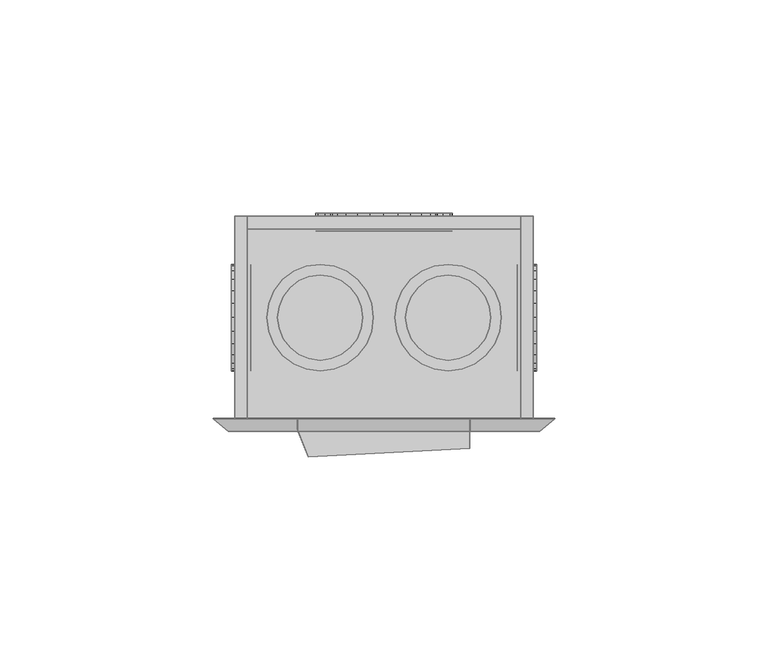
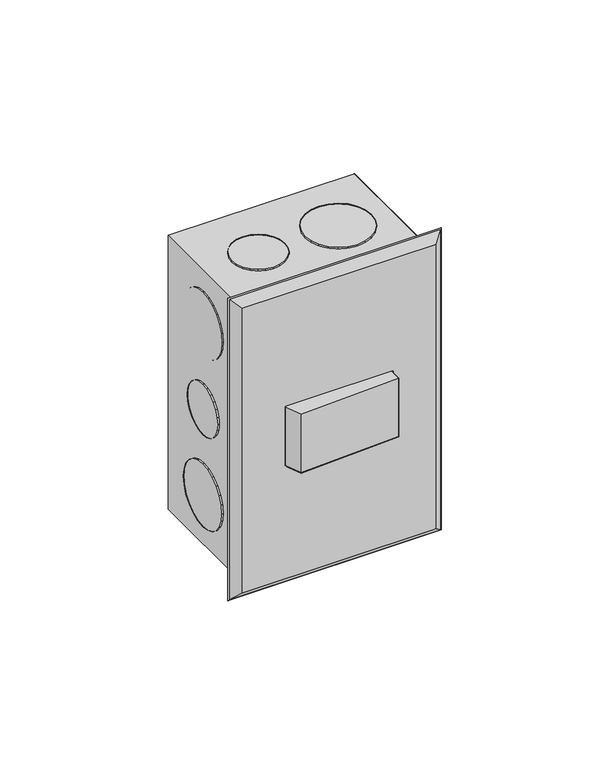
"""IFC4 building model written with IfcOpenShell, lengths in millimetres: proxy geometry,  210729 :  210729."""

from ifc_helpers import new_model, si_unit, origin, place, context, project, spatial, triangles, source, transform, mapped, element, save


def generic_models_3c2ccbee(model_context):
    return source(origin(), model_context, "Body", "Tessellation", [
        triangles([(9856.1797852, 26298.699408, 1254.3000378), (9853.1799683, 26298.699408, 1148.7000154), (9856.1797852, 26298.699408, 1145.6999805), (9853.1799683, 26298.699408, 1251.2999302), (9786.1805695, 26298.699408, 1254.3000378), (9789.1803864, 26298.699408, 1251.2999302), (9786.1805695, 26298.699408, 1145.6999805), (9789.1803864, 26298.699408, 1148.7000154), (9853.1799683, 26346.2011597, 1251.2999302), (9853.1799683, 26346.2011597, 1148.7000154), (9786.1805695, 26346.2011597, 1254.3000378), (9786.1805695, 26346.2011597, 1145.6999805), (9789.1803864, 26346.2011597, 1251.2999302), (9856.1797852, 26346.2011597, 1145.6999805), (9789.1803864, 26346.2011597, 1148.7000154), (9856.1797852, 26346.2011597, 1254.3000378), (9853.1799683, 26343.1990173, 1251.2999302), (9789.1803864, 26343.1990173, 1148.7000154), (9853.1799683, 26343.1990173, 1148.7000154), (9789.1803864, 26343.1990173, 1251.2999302), (9835.0799103, 26342.6990479, 1191.9999887), (9829.1802704, 26342.6990479, 1186.0999855), (9832.480069, 26342.6990479, 1188.6999722), (9836.6798126, 26342.6990479, 1195.8999687), (9825.3805023, 26342.6990479, 1184.5000105), (9837.1797821, 26342.6990479, 1200.0000092), (9821.1795959, 26342.6990479, 1183.9999683), (9836.6798126, 26342.6990479, 1204.0999769), (9817.0798462, 26342.6990479, 1184.5000105), (9835.0799103, 26342.6990479, 1208.0000296), (9813.1800842, 26342.6990479, 1186.0999855), (9832.480069, 26342.6990479, 1211.2999735), (9809.8802856, 26342.6990479, 1188.6999722), (9829.1802704, 26342.6990479, 1213.9000328), (9807.3804382, 26342.6990479, 1191.9999887), (9825.3805023, 26342.6990479, 1215.5000078), (9805.7805359, 26342.6990479, 1195.8999687), (9821.1795959, 26342.6990479, 1215.9999773), (9805.1805725, 26342.6990479, 1200.0000092), (9817.0798462, 26342.6990479, 1215.5000078), (9805.7805359, 26342.6990479, 1204.0999769), (9813.1800842, 26342.6990479, 1213.9000328), (9807.3804382, 26342.6990479, 1208.0000296), (9809.8802856, 26342.6990479, 1211.2999735), (9817.0798462, 26346.9011169, 1184.5000105), (9821.1795959, 26346.9011169, 1183.9999683), (9825.3805023, 26346.9011169, 1184.5000105), (9829.1802704, 26346.9011169, 1186.0999855), (9832.480069, 26346.9011169, 1188.6999722), (9835.0799103, 26346.9011169, 1191.9999887), (9836.6798126, 26346.9011169, 1195.8999687), (9837.1797821, 26346.9011169, 1200.0000092), (9836.6798126, 26346.9011169, 1204.0999769), (9835.0799103, 26346.9011169, 1208.0000296), (9832.480069, 26346.9011169, 1211.2999735), (9829.1802704, 26346.9011169, 1213.9000328), (9825.3805023, 26346.9011169, 1215.5000078), (9821.1795959, 26346.9011169, 1215.9999773), (9817.0798462, 26346.9011169, 1215.5000078), (9813.1800842, 26346.9011169, 1213.9000328), (9809.8802856, 26346.9011169, 1211.2999735), (9807.3804382, 26346.9011169, 1208.0000296), (9805.7805359, 26346.9011169, 1204.0999769), (9805.1805725, 26346.9011169, 1200.0000092), (9805.7805359, 26346.9011169, 1195.8999687), (9807.3804382, 26346.9011169, 1191.9999887), (9809.8802856, 26346.9011169, 1188.6999722), (9813.1800842, 26346.9011169, 1186.0999855), (9832.0800934, 26342.6990479, 1227.8000565), (9827.4803741, 26342.6990479, 1223.2000465), (9830.0802155, 26342.6990479, 1225.2000698), (9833.2800201, 26342.6990479, 1230.8000187), (9824.4805573, 26342.6990479, 1221.8999805), (9833.6799957, 26342.6990479, 1233.9999687), (9821.1795959, 26342.6990479, 1221.500005), (9833.2800201, 26342.6990479, 1237.2000641), (9817.9797913, 26342.6990479, 1221.8999805), (9832.0800934, 26342.6990479, 1240.3000202), (9814.9799744, 26342.6990479, 1223.2000465), (9830.0802155, 26342.6990479, 1242.800013), (9812.3801331, 26342.6990479, 1225.2000698), (9810.3802551, 26342.6990479, 1227.8000565), (9827.4803741, 26342.6990479, 1244.8000362), (9824.4805573, 26342.6990479, 1246.0999569), (9809.1803284, 26342.6990479, 1230.8000187), (9821.1795959, 26342.6990479, 1246.4999325), (9808.6803589, 26342.6990479, 1233.9999687), (9817.9797913, 26342.6990479, 1246.0999569), (9809.1803284, 26342.6990479, 1237.2000641), (9810.3802551, 26342.6990479, 1240.3000202), (9814.9799744, 26342.6990479, 1244.8000362), (9812.3801331, 26342.6990479, 1242.800013), (9809.1803284, 26346.9011169, 1230.8000187), (9810.3802551, 26346.9011169, 1227.8000565), (9812.3801331, 26346.9011169, 1225.2000698), (9814.9799744, 26346.9011169, 1223.2000465), (9817.9797913, 26346.9011169, 1221.8999805), (9821.1795959, 26346.9011169, 1221.500005), (9824.4805573, 26346.9011169, 1221.8999805), (9827.4803741, 26346.9011169, 1223.2000465), (9830.0802155, 26346.9011169, 1225.2000698), (9832.0800934, 26346.9011169, 1227.8000565), (9833.2800201, 26346.9011169, 1230.8000187), (9833.6799957, 26346.9011169, 1233.9999687), (9833.2800201, 26346.9011169, 1237.2000641), (9832.0800934, 26346.9011169, 1240.3000202), (9830.0802155, 26346.9011169, 1242.800013), (9827.4803741, 26346.9011169, 1244.8000362), (9824.4805573, 26346.9011169, 1246.0999569), (9821.1795959, 26346.9011169, 1246.4999325), (9817.9797913, 26346.9011169, 1246.0999569), (9814.9799744, 26346.9011169, 1244.8000362), (9812.3801331, 26346.9011169, 1242.800013), (9810.3802551, 26346.9011169, 1240.3000202), (9809.1803284, 26346.9011169, 1237.2000641), (9808.6803589, 26346.9011169, 1233.9999687), (9827.4803741, 26346.9011169, 1155.1999821), (9832.0800934, 26346.9011169, 1159.6999981), (9830.0802155, 26346.9011169, 1157.2000053), (9824.4805573, 26346.9011169, 1153.8999887), (9833.2800201, 26346.9011169, 1162.8000269), (9821.1795959, 26346.9011169, 1153.5000132), (9833.6799957, 26346.9011169, 1165.9999769), (9817.9797913, 26346.9011169, 1153.8999887), (9833.2800201, 26346.9011169, 1169.1999996), (9814.9799744, 26346.9011169, 1155.1999821), (9832.0800934, 26346.9011169, 1172.2000345), (9812.3801331, 26346.9011169, 1157.2000053), (9830.0802155, 26346.9011169, 1174.8000212), (9810.3802551, 26346.9011169, 1159.6999981), (9827.4803741, 26346.9011169, 1176.7999718), (9809.1803284, 26346.9011169, 1162.8000269), (9824.4805573, 26346.9011169, 1178.0999651), (9821.1795959, 26346.9011169, 1178.5000134), (9808.6803589, 26346.9011169, 1165.9999769), (9809.1803284, 26346.9011169, 1169.1999996), (9817.9797913, 26346.9011169, 1178.0999651), (9810.3802551, 26346.9011169, 1172.2000345), (9814.9799744, 26346.9011169, 1176.7999718), (9812.3801331, 26346.9011169, 1174.8000212), (9824.4805573, 26342.6990479, 1178.0999651), (9821.1795959, 26342.6990479, 1178.5000134), (9827.4803741, 26342.6990479, 1176.7999718), (9830.0802155, 26342.6990479, 1174.8000212), (9832.0800934, 26342.6990479, 1172.2000345), (9833.2800201, 26342.6990479, 1169.1999996), (9833.6799957, 26342.6990479, 1165.9999769), (9833.2800201, 26342.6990479, 1162.8000269), (9832.0800934, 26342.6990479, 1159.6999981), (9830.0802155, 26342.6990479, 1157.2000053), (9827.4803741, 26342.6990479, 1155.1999821), (9824.4805573, 26342.6990479, 1153.8999887), (9821.1795959, 26342.6990479, 1153.5000132), (9817.9797913, 26342.6990479, 1153.8999887), (9814.9799744, 26342.6990479, 1155.1999821), (9812.3801331, 26342.6990479, 1157.2000053), (9810.3802551, 26342.6990479, 1159.6999981), (9809.1803284, 26342.6990479, 1162.8000269), (9808.6803589, 26342.6990479, 1165.9999769), (9809.1803284, 26342.6990479, 1169.1999996), (9810.3802551, 26342.6990479, 1172.2000345), (9812.3801331, 26342.6990479, 1174.8000212), (9814.9799744, 26342.6990479, 1176.7999718), (9817.9797913, 26342.6990479, 1178.0999651), (9852.3800171, 26327.3999817, 1191.3000315), (9852.3800171, 26331.0997559, 1195.0000237), (9852.3800171, 26329.4998535, 1192.9000065), (9852.3800171, 26332.0996948, 1197.4000225), (9852.3800171, 26325.0001282, 1190.3000198), (9852.3800171, 26332.3996765, 1200.0000092), (9852.3800171, 26322.4002869, 1189.9999655), (9852.3800171, 26319.9004395, 1190.3000198), (9852.3800171, 26332.0996948, 1202.5999958), (9852.3800171, 26331.0997559, 1204.9999947), (9852.3800171, 26317.400592, 1191.3000315), (9852.3800171, 26329.4998535, 1207.1000118), (9852.3800171, 26315.4007141, 1192.9000065), (9852.3800171, 26313.8008118, 1195.0000237), (9852.3800171, 26327.3999817, 1208.6999868), (9852.3800171, 26312.8008728, 1197.4000225), (9852.3800171, 26325.0001282, 1209.6999985), (9852.3800171, 26312.4008972, 1200.0000092), (9852.3800171, 26322.4002869, 1209.9999802), (9852.3800171, 26312.8008728, 1202.5999958), (9852.3800171, 26319.9004395, 1209.6999985), (9852.3800171, 26317.400592, 1208.6999868), (9852.3800171, 26313.8008118, 1204.9999947), (9852.3800171, 26315.4007141, 1207.1000118), (9856.9797363, 26322.4002869, 1189.9999655), (9856.9797363, 26325.0001282, 1190.3000198), (9856.9797363, 26319.9004395, 1190.3000198), (9856.9797363, 26317.400592, 1191.3000315), (9856.9797363, 26315.4007141, 1192.9000065), (9856.9797363, 26313.8008118, 1195.0000237), (9856.9797363, 26312.8008728, 1197.4000225), (9856.9797363, 26312.4008972, 1200.0000092), (9856.9797363, 26312.8008728, 1202.5999958), (9856.9797363, 26313.8008118, 1204.9999947), (9856.9797363, 26315.4007141, 1207.1000118), (9856.9797363, 26317.400592, 1208.6999868), (9856.9797363, 26319.9004395, 1209.6999985), (9856.9797363, 26322.4002869, 1209.9999802), (9856.9797363, 26325.0001282, 1209.6999985), (9856.9797363, 26327.3999817, 1208.6999868), (9856.9797363, 26329.4998535, 1207.1000118), (9856.9797363, 26331.0997559, 1204.9999947), (9856.9797363, 26332.0996948, 1202.5999958), (9856.9797363, 26332.3996765, 1200.0000092), (9856.9797363, 26332.0996948, 1197.4000225), (9856.9797363, 26331.0997559, 1195.0000237), (9856.9797363, 26329.4998535, 1192.9000065), (9856.9797363, 26327.3999817, 1191.3000315), (9852.3800171, 26328.6999023, 1223.2000465), (9852.3800171, 26333.2996216, 1227.8000565), (9852.3800171, 26331.2997437, 1225.2000698), (9852.3800171, 26325.7000854, 1221.8999805), (9852.3800171, 26334.4995483, 1230.8000187), (9852.3800171, 26334.8995239, 1233.9999687), (9852.3800171, 26322.4002869, 1221.500005), (9852.3800171, 26319.2004822, 1221.8999805), (9852.3800171, 26334.4995483, 1237.2000641), (9852.3800171, 26333.2996216, 1240.3000202), (9852.3800171, 26316.2006653, 1223.2000465), (9852.3800171, 26313.600824, 1225.2000698), (9852.3800171, 26331.2997437, 1242.800013), (9852.3800171, 26311.600946, 1227.8000565), (9852.3800171, 26328.6999023, 1244.8000362), (9852.3800171, 26310.4010193, 1230.8000187), (9852.3800171, 26325.7000854, 1246.0999569), (9852.3800171, 26309.9010498, 1233.9999687), (9852.3800171, 26322.4002869, 1246.4999325), (9852.3800171, 26310.4010193, 1237.2000641), (9852.3800171, 26319.2004822, 1246.0999569), (9852.3800171, 26311.600946, 1240.3000202), (9852.3800171, 26316.2006653, 1244.8000362), (9852.3800171, 26313.600824, 1242.800013), (9856.9797363, 26322.4002869, 1221.500005), (9856.9797363, 26325.7000854, 1221.8999805), (9856.9797363, 26319.2004822, 1221.8999805), (9856.9797363, 26316.2006653, 1223.2000465), (9856.9797363, 26313.600824, 1225.2000698), (9856.9797363, 26311.600946, 1227.8000565), (9856.9797363, 26310.4010193, 1230.8000187), (9856.9797363, 26309.9010498, 1233.9999687), (9856.9797363, 26310.4010193, 1237.2000641), (9856.9797363, 26311.600946, 1240.3000202), (9856.9797363, 26313.600824, 1242.800013), (9856.9797363, 26316.2006653, 1244.8000362), (9856.9797363, 26319.2004822, 1246.0999569), (9856.9797363, 26322.4002869, 1246.4999325), (9856.9797363, 26325.7000854, 1246.0999569), (9856.9797363, 26328.6999023, 1244.8000362), (9856.9797363, 26331.2997437, 1242.800013), (9856.9797363, 26333.2996216, 1240.3000202), (9856.9797363, 26334.4995483, 1237.2000641), (9856.9797363, 26334.8995239, 1233.9999687), (9856.9797363, 26334.4995483, 1230.8000187), (9856.9797363, 26333.2996216, 1227.8000565), (9856.9797363, 26331.2997437, 1225.2000698), (9856.9797363, 26328.6999023, 1223.2000465), (9856.9797363, 26333.2996216, 1159.6999981), (9856.9797363, 26328.6999023, 1155.1999821), (9856.9797363, 26331.2997437, 1157.2000053), (9856.9797363, 26334.4995483, 1162.8000269), (9856.9797363, 26325.7000854, 1153.8999887), (9856.9797363, 26334.8995239, 1165.9999769), (9856.9797363, 26322.4002869, 1153.5000132), (9856.9797363, 26334.4995483, 1169.1999996), (9856.9797363, 26319.2004822, 1153.8999887), (9856.9797363, 26333.2996216, 1172.2000345), (9856.9797363, 26316.2006653, 1155.1999821), (9856.9797363, 26331.2997437, 1174.8000212), (9856.9797363, 26313.600824, 1157.2000053), (9856.9797363, 26328.6999023, 1176.7999718), (9856.9797363, 26311.600946, 1159.6999981), (9856.9797363, 26325.7000854, 1178.0999651), (9856.9797363, 26310.4010193, 1162.8000269), (9856.9797363, 26322.4002869, 1178.5000134), (9856.9797363, 26309.9010498, 1165.9999769), (9856.9797363, 26319.2004822, 1178.0999651), (9856.9797363, 26310.4010193, 1169.1999996), (9856.9797363, 26316.2006653, 1176.7999718), (9856.9797363, 26311.600946, 1172.2000345), (9856.9797363, 26313.600824, 1174.8000212), (9852.3800171, 26325.7000854, 1178.0999651), (9852.3800171, 26322.4002869, 1178.5000134), (9852.3800171, 26319.2004822, 1178.0999651), (9852.3800171, 26316.2006653, 1176.7999718), (9852.3800171, 26313.600824, 1174.8000212), (9852.3800171, 26311.600946, 1172.2000345), (9852.3800171, 26310.4010193, 1169.1999996), (9852.3800171, 26309.9010498, 1165.9999769), (9852.3800171, 26310.4010193, 1162.8000269), (9852.3800171, 26311.600946, 1159.6999981), (9852.3800171, 26313.600824, 1157.2000053), (9852.3800171, 26316.2006653, 1155.1999821), (9852.3800171, 26319.2004822, 1153.8999887), (9852.3800171, 26322.4002869, 1153.5000132), (9852.3800171, 26325.7000854, 1153.8999887), (9852.3800171, 26328.6999023, 1155.1999821), (9852.3800171, 26331.2997437, 1157.2000053), (9852.3800171, 26333.2996216, 1159.6999981), (9852.3800171, 26334.4995483, 1162.8000269), (9852.3800171, 26334.8995239, 1165.9999769), (9852.3800171, 26334.4995483, 1169.1999996), (9852.3800171, 26333.2996216, 1172.2000345), (9852.3800171, 26331.2997437, 1174.8000212), (9852.3800171, 26328.6999023, 1176.7999718), (9789.9803375, 26331.0997559, 1195.0000237), (9789.9803375, 26327.3999817, 1191.3000315), (9789.9803375, 26329.4998535, 1192.9000065), (9789.9803375, 26332.0996948, 1197.4000225), (9789.9803375, 26325.0001282, 1190.3000198), (9789.9803375, 26332.3996765, 1200.0000092), (9789.9803375, 26322.4002869, 1189.9999655), (9789.9803375, 26332.0996948, 1202.5999958), (9789.9803375, 26319.9004395, 1190.3000198), (9789.9803375, 26331.0997559, 1204.9999947), (9789.9803375, 26317.400592, 1191.3000315), (9789.9803375, 26329.4998535, 1207.1000118), (9789.9803375, 26315.4007141, 1192.9000065), (9789.9803375, 26327.3999817, 1208.6999868), (9789.9803375, 26313.8008118, 1195.0000237), (9789.9803375, 26325.0001282, 1209.6999985), (9789.9803375, 26312.8008728, 1197.4000225), (9789.9803375, 26312.4008972, 1200.0000092), (9789.9803375, 26322.4002869, 1209.9999802), (9789.9803375, 26319.9004395, 1209.6999985), (9789.9803375, 26312.8008728, 1202.5999958), (9789.9803375, 26317.400592, 1208.6999868), (9789.9803375, 26313.8008118, 1204.9999947), (9789.9803375, 26315.4007141, 1207.1000118), (9785.3794556, 26325.0001282, 1209.6999985), (9785.3794556, 26322.4002869, 1209.9999802), (9785.3794556, 26319.9004395, 1209.6999985), (9785.3794556, 26317.400592, 1208.6999868), (9785.3794556, 26315.4007141, 1207.1000118), (9785.3794556, 26313.8008118, 1204.9999947), (9785.3794556, 26312.8008728, 1202.5999958), (9785.3794556, 26312.4008972, 1200.0000092), (9785.3794556, 26312.8008728, 1197.4000225), (9785.3794556, 26313.8008118, 1195.0000237), (9785.3794556, 26315.4007141, 1192.9000065), (9785.3794556, 26317.400592, 1191.3000315), (9785.3794556, 26319.9004395, 1190.3000198), (9785.3794556, 26322.4002869, 1189.9999655), (9785.3794556, 26325.0001282, 1190.3000198), (9785.3794556, 26327.3999817, 1191.3000315), (9785.3794556, 26329.4998535, 1192.9000065), (9785.3794556, 26331.0997559, 1195.0000237), (9785.3794556, 26332.0996948, 1197.4000225), (9785.3794556, 26332.3996765, 1200.0000092), (9785.3794556, 26332.0996948, 1202.5999958), (9785.3794556, 26331.0997559, 1204.9999947), (9785.3794556, 26329.4998535, 1207.1000118), (9785.3794556, 26327.3999817, 1208.6999868), (9789.9803375, 26333.2996216, 1159.6999981), (9789.9803375, 26328.6999023, 1155.1999821), (9789.9803375, 26331.2997437, 1157.2000053), (9789.9803375, 26334.4995483, 1162.8000269), (9789.9803375, 26325.7000854, 1153.8999887), (9789.9803375, 26334.8995239, 1165.9999769), (9789.9803375, 26322.4002869, 1153.5000132), (9789.9803375, 26334.4995483, 1169.1999996), (9789.9803375, 26319.2004822, 1153.8999887), (9789.9803375, 26333.2996216, 1172.2000345), (9789.9803375, 26316.2006653, 1155.1999821), (9789.9803375, 26331.2997437, 1174.8000212), (9789.9803375, 26313.600824, 1157.2000053), (9789.9803375, 26328.6999023, 1176.7999718), (9789.9803375, 26311.600946, 1159.6999981), (9789.9803375, 26325.7000854, 1178.0999651), (9789.9803375, 26310.4010193, 1162.8000269), (9789.9803375, 26322.4002869, 1178.5000134), (9789.9803375, 26309.9010498, 1165.9999769), (9789.9803375, 26319.2004822, 1178.0999651), (9789.9803375, 26310.4010193, 1169.1999996), (9789.9803375, 26316.2006653, 1176.7999718), (9789.9803375, 26311.600946, 1172.2000345), (9789.9803375, 26313.600824, 1174.8000212), (9785.3794556, 26325.7000854, 1178.0999651), (9785.3794556, 26322.4002869, 1178.5000134), (9785.3794556, 26319.2004822, 1178.0999651), (9785.3794556, 26316.2006653, 1176.7999718), (9785.3794556, 26313.600824, 1174.8000212), (9785.3794556, 26311.600946, 1172.2000345), (9785.3794556, 26310.4010193, 1169.1999996), (9785.3794556, 26309.9010498, 1165.9999769), (9785.3794556, 26310.4010193, 1162.8000269), (9785.3794556, 26311.600946, 1159.6999981), (9785.3794556, 26313.600824, 1157.2000053), (9785.3794556, 26316.2006653, 1155.1999821), (9785.3794556, 26319.2004822, 1153.8999887), (9785.3794556, 26322.4002869, 1153.5000132), (9785.3794556, 26325.7000854, 1153.8999887), (9785.3794556, 26328.6999023, 1155.1999821), (9785.3794556, 26331.2997437, 1157.2000053), (9785.3794556, 26333.2996216, 1159.6999981), (9785.3794556, 26334.4995483, 1162.8000269), (9785.3794556, 26334.8995239, 1165.9999769), (9785.3794556, 26334.4995483, 1169.1999996), (9785.3794556, 26333.2996216, 1172.2000345), (9785.3794556, 26331.2997437, 1174.8000212), (9785.3794556, 26328.6999023, 1176.7999718), (9785.3794556, 26328.6999023, 1223.2000465), (9785.3794556, 26333.2996216, 1227.8000565), (9785.3794556, 26331.2997437, 1225.2000698), (9785.3794556, 26325.7000854, 1221.8999805), (9785.3794556, 26334.4995483, 1230.8000187), (9785.3794556, 26334.8995239, 1233.9999687), (9785.3794556, 26322.4002869, 1221.500005), (9785.3794556, 26319.2004822, 1221.8999805), (9785.3794556, 26334.4995483, 1237.2000641), (9785.3794556, 26333.2996216, 1240.3000202), (9785.3794556, 26316.2006653, 1223.2000465), (9785.3794556, 26313.600824, 1225.2000698), (9785.3794556, 26331.2997437, 1242.800013), (9785.3794556, 26311.600946, 1227.8000565), (9785.3794556, 26328.6999023, 1244.8000362), (9785.3794556, 26310.4010193, 1230.8000187), (9785.3794556, 26325.7000854, 1246.0999569), (9785.3794556, 26309.9010498, 1233.9999687), (9785.3794556, 26322.4002869, 1246.4999325), (9785.3794556, 26310.4010193, 1237.2000641), (9785.3794556, 26319.2004822, 1246.0999569), (9785.3794556, 26311.600946, 1240.3000202), (9785.3794556, 26316.2006653, 1244.8000362), (9785.3794556, 26313.600824, 1242.800013), (9789.9803375, 26322.4002869, 1221.500005), (9789.9803375, 26325.7000854, 1221.8999805), (9789.9803375, 26319.2004822, 1221.8999805), (9789.9803375, 26316.2006653, 1223.2000465), (9789.9803375, 26313.600824, 1225.2000698), (9789.9803375, 26311.600946, 1227.8000565), (9789.9803375, 26310.4010193, 1230.8000187), (9789.9803375, 26309.9010498, 1233.9999687), (9789.9803375, 26310.4010193, 1237.2000641), (9789.9803375, 26311.600946, 1240.3000202), (9789.9803375, 26313.600824, 1242.800013), (9789.9803375, 26316.2006653, 1244.8000362), (9789.9803375, 26319.2004822, 1246.0999569), (9789.9803375, 26322.4002869, 1246.4999325), (9789.9803375, 26325.7000854, 1246.0999569), (9789.9803375, 26328.6999023, 1244.8000362), (9789.9803375, 26331.2997437, 1242.800013), (9789.9803375, 26333.2996216, 1240.3000202), (9789.9803375, 26334.4995483, 1237.2000641), (9789.9803375, 26334.8995239, 1233.9999687), (9789.9803375, 26334.4995483, 1230.8000187), (9789.9803375, 26333.2996216, 1227.8000565), (9789.9803375, 26331.2997437, 1225.2000698), (9789.9803375, 26328.6999023, 1223.2000465), (9847.0803406, 26328.6999023, 1250.9999485), (9842.4794586, 26333.2996216, 1250.9999485), (9845.0804626, 26331.2997437, 1250.9999485), (9848.2802673, 26325.7000854, 1250.9999485), (9839.4796417, 26334.4995483, 1250.9999485), (9836.1798431, 26334.8995239, 1250.9999485), (9848.6802429, 26322.4002869, 1250.9999485), (9848.2802673, 26319.2004822, 1250.9999485), (9832.9800385, 26334.4995483, 1250.9999485), (9829.9802216, 26333.2996216, 1250.9999485), (9847.0803406, 26316.2006653, 1250.9999485), (9845.0804626, 26313.600824, 1250.9999485), (9827.3803802, 26331.2997437, 1250.9999485), (9825.3805023, 26328.6999023, 1250.9999485), (9842.4794586, 26311.600946, 1250.9999485), (9839.4796417, 26310.4010193, 1250.9999485), (9824.1805756, 26325.7000854, 1250.9999485), (9836.1798431, 26309.9010498, 1250.9999485), (9823.6794434, 26322.4002869, 1250.9999485), (9832.9800385, 26310.4010193, 1250.9999485), (9824.1805756, 26319.2004822, 1250.9999485), (9825.3805023, 26316.2006653, 1250.9999485), (9829.9802216, 26311.600946, 1250.9999485), (9827.3803802, 26313.600824, 1250.9999485), (9836.1798431, 26334.8995239, 1255.1999828), (9832.9800385, 26334.4995483, 1255.1999828), (9839.4796417, 26334.4995483, 1255.1999828), (9842.4794586, 26333.2996216, 1255.1999828), (9845.0804626, 26331.2997437, 1255.1999828), (9847.0803406, 26328.6999023, 1255.1999828), (9848.2802673, 26325.7000854, 1255.1999828), (9848.6802429, 26322.4002869, 1255.1999828), (9848.2802673, 26319.2004822, 1255.1999828), (9847.0803406, 26316.2006653, 1255.1999828), (9845.0804626, 26313.600824, 1255.1999828), (9842.4794586, 26311.600946, 1255.1999828), (9839.4796417, 26310.4010193, 1255.1999828), (9836.1798431, 26309.9010498, 1255.1999828), (9832.9800385, 26310.4010193, 1255.1999828), (9829.9802216, 26311.600946, 1255.1999828), (9827.3803802, 26313.600824, 1255.1999828), (9825.3805023, 26316.2006653, 1255.1999828), (9824.1805756, 26319.2004822, 1255.1999828), (9823.6794434, 26322.4002869, 1255.1999828), (9824.1805756, 26325.7000854, 1255.1999828), (9825.3805023, 26328.6999023, 1255.1999828), (9827.3803802, 26331.2997437, 1255.1999828), (9829.9802216, 26333.2996216, 1255.1999828), (9814.8799805, 26327.3999817, 1250.9999485), (9811.1802063, 26331.0997559, 1250.9999485), (9813.2800781, 26329.4998535, 1250.9999485), (9808.7803528, 26332.0996948, 1250.9999485), (9815.8799194, 26325.0001282, 1250.9999485), (9806.1805115, 26332.3996765, 1250.9999485), (9816.1799011, 26322.4002869, 1250.9999485), (9815.8799194, 26319.9004395, 1250.9999485), (9803.5795074, 26332.0996948, 1250.9999485), (9801.1796539, 26331.0997559, 1250.9999485), (9814.8799805, 26317.400592, 1250.9999485), (9799.179776, 26329.4998535, 1250.9999485), (9813.2800781, 26315.4007141, 1250.9999485), (9811.1802063, 26313.8008118, 1250.9999485), (9797.5798737, 26327.3999817, 1250.9999485), (9796.5799347, 26325.0001282, 1250.9999485), (9808.7803528, 26312.8008728, 1250.9999485), (9806.1805115, 26312.4008972, 1250.9999485), (9796.1799591, 26322.4002869, 1250.9999485), (9803.5795074, 26312.8008728, 1250.9999485), (9796.5799347, 26319.9004395, 1250.9999485), (9801.1796539, 26313.8008118, 1250.9999485), (9797.5798737, 26317.400592, 1250.9999485), (9799.179776, 26315.4007141, 1250.9999485), (9803.5795074, 26332.0996948, 1255.1999828), (9801.1796539, 26331.0997559, 1255.1999828), (9806.1805115, 26332.3996765, 1255.1999828), (9808.7803528, 26332.0996948, 1255.1999828), (9811.1802063, 26331.0997559, 1255.1999828), (9813.2800781, 26329.4998535, 1255.1999828), (9814.8799805, 26327.3999817, 1255.1999828), (9815.8799194, 26325.0001282, 1255.1999828), (9816.1799011, 26322.4002869, 1255.1999828), (9815.8799194, 26319.9004395, 1255.1999828), (9814.8799805, 26317.400592, 1255.1999828), (9813.2800781, 26315.4007141, 1255.1999828), (9811.1802063, 26313.8008118, 1255.1999828), (9808.7803528, 26312.8008728, 1255.1999828), (9806.1805115, 26312.4008972, 1255.1999828), (9803.5795074, 26312.8008728, 1255.1999828), (9801.1796539, 26313.8008118, 1255.1999828), (9799.179776, 26315.4007141, 1255.1999828), (9797.5798737, 26317.400592, 1255.1999828), (9796.5799347, 26319.9004395, 1255.1999828), (9796.1799591, 26322.4002869, 1255.1999828), (9796.5799347, 26325.0001282, 1255.1999828), (9797.5798737, 26327.3999817, 1255.1999828), (9799.179776, 26329.4998535, 1255.1999828), (9844.8804749, 26327.3999817, 1144.8000355), (9841.179538, 26331.0997559, 1144.8000355), (9843.2805725, 26329.4998535, 1144.8000355), (9838.7796844, 26332.0996948, 1144.8000355), (9845.8804138, 26325.0001282, 1144.8000355), (9836.1798431, 26332.3996765, 1144.8000355), (9846.1803955, 26322.4002869, 1144.8000355), (9845.8804138, 26319.9004395, 1144.8000355), (9833.5800018, 26332.0996948, 1144.8000355), (9831.1801483, 26331.0997559, 1144.8000355), (9844.8804749, 26317.400592, 1144.8000355), (9829.1802704, 26329.4998535, 1144.8000355), (9843.2805725, 26315.4007141, 1144.8000355), (9841.179538, 26313.8008118, 1144.8000355), (9827.580368, 26327.3999817, 1144.8000355), (9826.5804291, 26325.0001282, 1144.8000355), (9838.7796844, 26312.8008728, 1144.8000355), (9836.1798431, 26312.4008972, 1144.8000355), (9826.1804535, 26322.4002869, 1144.8000355), (9833.5800018, 26312.8008728, 1144.8000355), (9826.5804291, 26319.9004395, 1144.8000355), (9831.1801483, 26313.8008118, 1144.8000355), (9827.580368, 26317.400592, 1144.8000355), (9829.1802704, 26315.4007141, 1144.8000355), (9838.7796844, 26332.0996948, 1149.099991), (9836.1798431, 26332.3996765, 1149.099991), (9841.179538, 26331.0997559, 1149.099991), (9843.2805725, 26329.4998535, 1149.099991), (9844.8804749, 26327.3999817, 1149.099991), (9845.8804138, 26325.0001282, 1149.099991), (9846.1803955, 26322.4002869, 1149.099991), (9845.8804138, 26319.9004395, 1149.099991), (9844.8804749, 26317.400592, 1149.099991), (9843.2805725, 26315.4007141, 1149.099991), (9841.179538, 26313.8008118, 1149.099991), (9838.7796844, 26312.8008728, 1149.099991), (9836.1798431, 26312.4008972, 1149.099991), (9833.5800018, 26312.8008728, 1149.099991), (9831.1801483, 26313.8008118, 1149.099991), (9829.1802704, 26315.4007141, 1149.099991), (9827.580368, 26317.400592, 1149.099991), (9826.5804291, 26319.9004395, 1149.099991), (9826.1804535, 26322.4002869, 1149.099991), (9826.5804291, 26325.0001282, 1149.099991), (9827.580368, 26327.3999817, 1149.099991), (9829.1802704, 26329.4998535, 1149.099991), (9831.1801483, 26331.0997559, 1149.099991), (9833.5800018, 26332.0996948, 1149.099991), (9817.0798462, 26328.6999023, 1144.8000355), (9812.480127, 26333.2996216, 1144.8000355), (9815.0799683, 26331.2997437, 1144.8000355), (9818.2797729, 26325.7000854, 1144.8000355), (9809.4803101, 26334.4995483, 1144.8000355), (9806.1805115, 26334.8995239, 1144.8000355), (9818.6797485, 26322.4002869, 1144.8000355), (9818.2797729, 26319.2004822, 1144.8000355), (9802.9795441, 26334.4995483, 1144.8000355), (9799.9797272, 26333.2996216, 1144.8000355), (9817.0798462, 26316.2006653, 1144.8000355), (9815.0799683, 26313.600824, 1144.8000355), (9797.3798859, 26331.2997437, 1144.8000355), (9795.3800079, 26328.6999023, 1144.8000355), (9812.480127, 26311.600946, 1144.8000355), (9809.4803101, 26310.4010193, 1144.8000355), (9794.1800812, 26325.7000854, 1144.8000355), (9806.1805115, 26309.9010498, 1144.8000355), (9793.6801117, 26322.4002869, 1144.8000355), (9802.9795441, 26310.4010193, 1144.8000355), (9794.1800812, 26319.2004822, 1144.8000355), (9795.3800079, 26316.2006653, 1144.8000355), (9799.9797272, 26311.600946, 1144.8000355), (9797.3798859, 26313.600824, 1144.8000355), (9802.9795441, 26334.4995483, 1149.099991), (9799.9797272, 26333.2996216, 1149.099991), (9806.1805115, 26334.8995239, 1149.099991), (9809.4803101, 26334.4995483, 1149.099991), (9812.480127, 26333.2996216, 1149.099991), (9815.0799683, 26331.2997437, 1149.099991), (9817.0798462, 26328.6999023, 1149.099991), (9818.2797729, 26325.7000854, 1149.099991), (9818.6797485, 26322.4002869, 1149.099991), (9818.2797729, 26319.2004822, 1149.099991), (9817.0798462, 26316.2006653, 1149.099991), (9815.0799683, 26313.600824, 1149.099991), (9812.480127, 26311.600946, 1149.099991), (9809.4803101, 26310.4010193, 1149.099991), (9806.1805115, 26309.9010498, 1149.099991), (9802.9795441, 26310.4010193, 1149.099991), (9799.9797272, 26311.600946, 1149.099991), (9797.3798859, 26313.600824, 1149.099991), (9795.3800079, 26316.2006653, 1149.099991), (9794.1800812, 26319.2004822, 1149.099991), (9793.6801117, 26322.4002869, 1149.099991), (9794.1800812, 26325.7000854, 1149.099991), (9795.3800079, 26328.6999023, 1149.099991), (9797.3798859, 26331.2997437, 1149.099991), (9781.1797119, 26298.699408, 1139.9999651), (9841.3795258, 26298.699408, 1188.2999966), (9861.17948, 26298.699408, 1139.9999651), (9800.9796661, 26298.699408, 1188.2999966), (9781.1797119, 26298.699408, 1259.9999805), (9800.9796661, 26298.699408, 1211.7000217), (9861.17948, 26298.699408, 1259.9999805), (9841.3795258, 26298.699408, 1211.7000217), (9800.9796661, 26295.6995911, 1188.2999966), (9800.9796661, 26295.6995911, 1211.7000217), (9841.3795258, 26295.6995911, 1188.2999966), (9841.3795258, 26295.6995911, 1211.7000217), (9857.6796936, 26295.6995911, 1143.4999695), (9857.6796936, 26295.6995911, 1256.5000488), (9784.6794983, 26295.6995911, 1143.4999695), (9784.6794983, 26295.6995911, 1256.5000488), (9841.2795319, 26291.6998352, 1188.1000088), (9800.8796722, 26298.699408, 1188.1000088), (9841.2795319, 26298.699408, 1188.1000088), (9803.4795135, 26289.7999512, 1188.1000088), (9800.8796722, 26296.1995605, 1188.1000088), (9841.2795319, 26298.699408, 1211.500034), (9800.8796722, 26298.699408, 1211.500034), (9841.2795319, 26291.6998352, 1211.500034), (9803.4795135, 26289.7999512, 1211.500034), (9800.8796722, 26296.1995605, 1211.500034)], [[1, 2, 3], [2, 1, 4], [5, 4, 1], [4, 5, 6], [3, 2, 7], [7, 2, 8], [7, 8, 6], [7, 6, 5], [2, 9, 10], [9, 2, 4], [7, 11, 12], [11, 7, 5], [4, 13, 9], [13, 4, 6], [3, 12, 14], [12, 3, 7], [13, 8, 15], [8, 13, 6], [16, 3, 14], [3, 16, 1], [15, 2, 10], [2, 15, 8], [11, 1, 16], [1, 11, 5], [12, 10, 14], [10, 12, 15], [11, 15, 12], [15, 11, 13], [14, 10, 16], [16, 10, 9], [16, 9, 13], [16, 13, 11], [17, 18, 19], [18, 17, 20], [18, 13, 15], [13, 18, 20], [19, 15, 10], [15, 19, 18], [9, 19, 10], [19, 9, 17], [13, 17, 9], [17, 13, 20], [15, 9, 10], [9, 15, 13], [21, 22, 23], [22, 21, 24], [25, 22, 24], [25, 24, 26], [27, 25, 26], [27, 26, 28], [29, 27, 28], [29, 28, 30], [31, 29, 30], [31, 30, 32], [31, 32, 33], [33, 32, 34], [33, 34, 35], [35, 34, 36], [35, 36, 37], [37, 36, 38], [37, 38, 39], [39, 38, 40], [39, 40, 41], [41, 40, 42], [41, 42, 43], [43, 42, 44], [27, 45, 46], [45, 27, 29], [25, 46, 47], [46, 25, 27], [22, 47, 48], [47, 22, 25], [23, 48, 49], [48, 23, 22], [50, 23, 49], [23, 50, 21], [51, 21, 50], [21, 51, 24], [52, 24, 51], [24, 52, 26], [53, 26, 52], [26, 53, 28], [54, 28, 53], [28, 54, 30], [55, 30, 54], [30, 55, 32], [56, 32, 55], [32, 56, 34], [57, 34, 56], [34, 57, 36], [58, 36, 57], [36, 58, 38], [59, 38, 58], [38, 59, 40], [60, 40, 59], [40, 60, 42], [61, 42, 60], [42, 61, 44], [43, 61, 62], [61, 43, 44], [41, 62, 63], [62, 41, 43], [39, 63, 64], [63, 39, 41], [37, 64, 65], [64, 37, 39], [35, 65, 66], [65, 35, 37], [33, 66, 67], [66, 33, 35], [31, 67, 68], [67, 31, 33], [29, 68, 45], [68, 29, 31], [48, 50, 49], [50, 48, 47], [51, 50, 47], [51, 47, 46], [52, 51, 46], [52, 46, 45], [53, 52, 45], [53, 45, 68], [54, 53, 68], [54, 68, 67], [54, 67, 55], [55, 67, 66], [55, 66, 56], [56, 66, 65], [56, 65, 57], [57, 65, 64], [57, 64, 58], [58, 64, 63], [58, 63, 59], [59, 63, 62], [59, 62, 60], [60, 62, 61], [69, 70, 71], [70, 69, 72], [73, 70, 72], [73, 72, 74], [75, 73, 74], [75, 74, 76], [77, 75, 76], [77, 76, 78], [79, 77, 78], [79, 78, 80], [81, 79, 80], [81, 80, 82], [82, 80, 83], [82, 83, 84], [82, 84, 85], [85, 84, 86], [85, 86, 87], [87, 86, 88], [87, 88, 89], [89, 88, 90], [90, 88, 91], [90, 91, 92], [82, 93, 94], [93, 82, 85], [81, 94, 95], [94, 81, 82], [79, 95, 96], [95, 79, 81], [77, 96, 97], [96, 77, 79], [75, 97, 98], [97, 75, 77], [73, 98, 99], [98, 73, 75], [70, 99, 100], [99, 70, 73], [71, 100, 101], [100, 71, 70], [102, 71, 101], [71, 102, 69], [103, 69, 102], [69, 103, 72], [104, 72, 103], [72, 104, 74], [105, 74, 104], [74, 105, 76], [106, 76, 105], [76, 106, 78], [107, 78, 106], [78, 107, 80], [108, 80, 107], [80, 108, 83], [109, 83, 108], [83, 109, 84], [110, 84, 109], [84, 110, 86], [111, 86, 110], [86, 111, 88], [112, 88, 111], [88, 112, 91], [113, 91, 112], [91, 113, 92], [90, 113, 114], [113, 90, 92], [89, 114, 115], [114, 89, 90], [87, 115, 116], [115, 87, 89], [85, 116, 93], [116, 85, 87], [100, 102, 101], [102, 100, 99], [103, 102, 99], [103, 99, 98], [104, 103, 98], [104, 98, 97], [105, 104, 97], [106, 105, 97], [106, 97, 96], [106, 96, 95], [106, 95, 107], [107, 95, 94], [107, 94, 108], [108, 94, 93], [108, 93, 109], [109, 93, 116], [109, 116, 110], [110, 116, 115], [110, 115, 111], [111, 115, 114], [111, 114, 112], [112, 114, 113], [117, 118, 119], [118, 117, 120], [121, 118, 120], [121, 120, 122], [123, 121, 122], [123, 122, 124], [125, 123, 124], [125, 124, 126], [127, 125, 126], [127, 126, 128], [127, 128, 129], [129, 128, 130], [129, 130, 131], [131, 130, 132], [131, 132, 133], [133, 132, 134], [134, 132, 135], [134, 135, 136], [134, 136, 137], [137, 136, 138], [137, 138, 139], [139, 138, 140], [134, 141, 133], [141, 134, 142], [133, 143, 131], [143, 133, 141], [131, 144, 129], [144, 131, 143], [129, 145, 127], [145, 129, 144], [127, 146, 125], [146, 127, 145], [125, 147, 123], [147, 125, 146], [123, 148, 121], [148, 123, 147], [121, 149, 118], [149, 121, 148], [118, 150, 119], [150, 118, 149], [150, 117, 119], [117, 150, 151], [151, 120, 117], [120, 151, 152], [152, 122, 120], [122, 152, 153], [153, 124, 122], [124, 153, 154], [154, 126, 124], [126, 154, 155], [155, 128, 126], [128, 155, 156], [156, 130, 128], [130, 156, 157], [157, 132, 130], [132, 157, 158], [158, 135, 132], [135, 158, 159], [159, 136, 135], [136, 159, 160], [160, 138, 136], [138, 160, 161], [161, 140, 138], [140, 161, 162], [140, 163, 139], [163, 140, 162], [139, 164, 137], [164, 139, 163], [137, 142, 134], [142, 137, 164], [149, 151, 150], [151, 149, 148], [152, 151, 148], [153, 152, 148], [153, 148, 147], [153, 147, 146], [154, 153, 146], [154, 146, 145], [155, 154, 145], [155, 145, 144], [156, 155, 144], [156, 144, 157], [157, 144, 143], [157, 143, 141], [157, 141, 158], [158, 141, 142], [158, 142, 159], [159, 142, 164], [159, 164, 160], [160, 164, 163], [160, 163, 161], [161, 163, 162], [165, 166, 167], [168, 166, 165], [168, 165, 169], [170, 168, 169], [170, 169, 171], [170, 171, 172], [173, 170, 172], [174, 173, 172], [174, 172, 175], [176, 174, 175], [176, 175, 177], [176, 177, 178], [176, 178, 179], [179, 178, 180], [179, 180, 181], [181, 180, 182], [181, 182, 183], [183, 182, 184], [183, 184, 185], [185, 184, 186], [186, 184, 187], [186, 187, 188], [189, 169, 190], [169, 189, 171], [191, 171, 189], [171, 191, 172], [192, 172, 191], [172, 192, 175], [193, 175, 192], [175, 193, 177], [194, 177, 193], [177, 194, 178], [195, 178, 194], [178, 195, 180], [196, 180, 195], [180, 196, 182], [197, 182, 196], [182, 197, 184], [198, 184, 197], [184, 198, 187], [199, 187, 198], [187, 199, 188], [186, 199, 200], [199, 186, 188], [185, 200, 201], [200, 185, 186], [183, 201, 202], [201, 183, 185], [181, 202, 203], [202, 181, 183], [179, 203, 204], [203, 179, 181], [176, 204, 205], [204, 176, 179], [174, 205, 206], [205, 174, 176], [173, 206, 207], [206, 173, 174], [170, 207, 208], [207, 170, 173], [168, 208, 209], [208, 168, 170], [166, 209, 210], [209, 166, 168], [167, 210, 211], [210, 167, 166], [212, 167, 211], [167, 212, 165], [190, 165, 212], [165, 190, 169], [210, 212, 211], [212, 210, 209], [190, 212, 209], [190, 209, 208], [189, 190, 208], [189, 208, 207], [191, 189, 207], [191, 207, 206], [192, 191, 206], [192, 206, 205], [192, 205, 193], [193, 205, 204], [193, 204, 194], [194, 204, 203], [194, 203, 195], [195, 203, 196], [196, 203, 202], [196, 202, 201], [196, 201, 197], [197, 201, 200], [197, 200, 198], [198, 200, 199], [213, 214, 215], [214, 213, 216], [217, 214, 216], [218, 217, 216], [218, 216, 219], [218, 219, 220], [221, 218, 220], [222, 221, 220], [222, 220, 223], [222, 223, 224], [222, 224, 225], [225, 224, 226], [225, 226, 227], [227, 226, 228], [227, 228, 229], [229, 228, 230], [229, 230, 231], [231, 230, 232], [231, 232, 233], [233, 232, 234], [233, 234, 235], [235, 234, 236], [237, 216, 238], [216, 237, 219], [239, 219, 237], [219, 239, 220], [240, 220, 239], [220, 240, 223], [241, 223, 240], [223, 241, 224], [242, 224, 241], [224, 242, 226], [243, 226, 242], [226, 243, 228], [244, 228, 243], [228, 244, 230], [245, 230, 244], [230, 245, 232], [246, 232, 245], [232, 246, 234], [247, 234, 246], [234, 247, 236], [235, 247, 248], [247, 235, 236], [233, 248, 249], [248, 233, 235], [231, 249, 250], [249, 231, 233], [229, 250, 251], [250, 229, 231], [227, 251, 252], [251, 227, 229], [225, 252, 253], [252, 225, 227], [222, 253, 254], [253, 222, 225], [221, 254, 255], [254, 221, 222], [218, 255, 256], [255, 218, 221], [217, 256, 257], [256, 217, 218], [214, 257, 258], [257, 214, 217], [215, 258, 259], [258, 215, 214], [260, 215, 259], [215, 260, 213], [238, 213, 260], [213, 238, 216], [258, 260, 259], [260, 258, 257], [238, 260, 257], [238, 257, 256], [237, 238, 256], [237, 256, 255], [239, 237, 255], [239, 255, 254], [240, 239, 254], [240, 254, 253], [241, 240, 253], [241, 253, 252], [241, 252, 242], [242, 252, 251], [242, 251, 243], [243, 251, 244], [244, 251, 250], [244, 250, 249], [244, 249, 245], [245, 249, 246], [246, 249, 248], [246, 248, 247], [261, 262, 263], [262, 261, 264], [265, 262, 264], [265, 264, 266], [267, 265, 266], [267, 266, 268], [269, 267, 268], [269, 268, 270], [271, 269, 270], [271, 270, 272], [273, 271, 272], [273, 272, 274], [273, 274, 275], [275, 274, 276], [275, 276, 277], [277, 276, 278], [277, 278, 279], [279, 278, 280], [279, 280, 281], [281, 280, 282], [281, 282, 283], [283, 282, 284], [285, 278, 276], [278, 285, 286], [286, 280, 278], [280, 286, 287], [287, 282, 280], [282, 287, 288], [288, 284, 282], [284, 288, 289], [284, 290, 283], [290, 284, 289], [283, 291, 281], [291, 283, 290], [281, 292, 279], [292, 281, 291], [279, 293, 277], [293, 279, 292], [277, 294, 275], [294, 277, 293], [275, 295, 273], [295, 275, 294], [273, 296, 271], [296, 273, 295], [271, 297, 269], [297, 271, 296], [269, 298, 267], [298, 269, 297], [267, 299, 265], [299, 267, 298], [265, 300, 262], [300, 265, 299], [262, 301, 263], [301, 262, 300], [301, 261, 263], [261, 301, 302], [302, 264, 261], [264, 302, 303], [303, 266, 264], [266, 303, 304], [304, 268, 266], [268, 304, 305], [305, 270, 268], [270, 305, 306], [306, 272, 270], [272, 306, 307], [307, 274, 272], [274, 307, 308], [308, 276, 274], [276, 308, 285], [300, 302, 301], [302, 300, 299], [303, 302, 299], [303, 299, 298], [304, 303, 298], [304, 298, 297], [305, 304, 297], [305, 297, 296], [306, 305, 296], [306, 296, 295], [306, 295, 307], [307, 295, 294], [307, 294, 308], [308, 294, 293], [308, 293, 285], [285, 293, 286], [286, 293, 292], [286, 292, 291], [286, 291, 287], [287, 291, 288], [288, 291, 290], [288, 290, 289], [309, 310, 311], [310, 309, 312], [313, 310, 312], [313, 312, 314], [315, 313, 314], [315, 314, 316], [317, 315, 316], [317, 316, 318], [319, 317, 318], [319, 318, 320], [319, 320, 321], [321, 320, 322], [321, 322, 323], [323, 322, 324], [323, 324, 325], [325, 324, 326], [326, 324, 327], [326, 327, 328], [326, 328, 329], [329, 328, 330], [329, 330, 331], [331, 330, 332], [333, 327, 324], [327, 333, 334], [334, 328, 327], [328, 334, 335], [335, 330, 328], [330, 335, 336], [336, 332, 330], [332, 336, 337], [332, 338, 331], [338, 332, 337], [331, 339, 329], [339, 331, 338], [329, 340, 326], [340, 329, 339], [326, 341, 325], [341, 326, 340], [325, 342, 323], [342, 325, 341], [323, 343, 321], [343, 323, 342], [321, 344, 319], [344, 321, 343], [319, 345, 317], [345, 319, 344], [317, 346, 315], [346, 317, 345], [315, 347, 313], [347, 315, 346], [313, 348, 310], [348, 313, 347], [310, 349, 311], [349, 310, 348], [349, 309, 311], [309, 349, 350], [350, 312, 309], [312, 350, 351], [351, 314, 312], [314, 351, 352], [352, 316, 314], [316, 352, 353], [353, 318, 316], [318, 353, 354], [354, 320, 318], [320, 354, 355], [355, 322, 320], [322, 355, 356], [356, 324, 322], [324, 356, 333], [348, 350, 349], [351, 350, 348], [351, 348, 347], [352, 351, 347], [352, 347, 346], [352, 346, 345], [353, 352, 345], [354, 353, 345], [354, 345, 344], [355, 354, 344], [355, 344, 343], [355, 343, 342], [355, 342, 356], [356, 342, 341], [356, 341, 333], [333, 341, 340], [333, 340, 334], [334, 340, 339], [334, 339, 335], [335, 339, 336], [336, 339, 338], [336, 338, 337], [357, 358, 359], [358, 357, 360], [361, 358, 360], [361, 360, 362], [363, 361, 362], [363, 362, 364], [365, 363, 364], [365, 364, 366], [367, 365, 366], [367, 366, 368], [369, 367, 368], [369, 368, 370], [369, 370, 371], [371, 370, 372], [371, 372, 373], [373, 372, 374], [373, 374, 375], [375, 374, 376], [375, 376, 377], [377, 376, 378], [377, 378, 379], [379, 378, 380], [381, 374, 372], [374, 381, 382], [382, 376, 374], [376, 382, 383], [383, 378, 376], [378, 383, 384], [384, 380, 378], [380, 384, 385], [380, 386, 379], [386, 380, 385], [379, 387, 377], [387, 379, 386], [377, 388, 375], [388, 377, 387], [375, 389, 373], [389, 375, 388], [373, 390, 371], [390, 373, 389], [371, 391, 369], [391, 371, 390], [369, 392, 367], [392, 369, 391], [367, 393, 365], [393, 367, 392], [365, 394, 363], [394, 365, 393], [363, 395, 361], [395, 363, 394], [361, 396, 358], [396, 361, 395], [358, 397, 359], [397, 358, 396], [397, 357, 359], [357, 397, 398], [398, 360, 357], [360, 398, 399], [399, 362, 360], [362, 399, 400], [400, 364, 362], [364, 400, 401], [401, 366, 364], [366, 401, 402], [402, 368, 366], [368, 402, 403], [403, 370, 368], [370, 403, 404], [404, 372, 370], [372, 404, 381], [396, 398, 397], [398, 396, 395], [399, 398, 395], [399, 395, 394], [400, 399, 394], [400, 394, 393], [401, 400, 393], [401, 393, 392], [402, 401, 392], [402, 392, 391], [402, 391, 403], [403, 391, 390], [403, 390, 404], [404, 390, 389], [404, 389, 381], [381, 389, 382], [382, 389, 388], [382, 388, 387], [382, 387, 383], [383, 387, 384], [384, 387, 386], [384, 386, 385], [405, 406, 407], [406, 405, 408], [409, 406, 408], [410, 409, 408], [410, 408, 411], [410, 411, 412], [413, 410, 412], [414, 413, 412], [414, 412, 415], [414, 415, 416], [414, 416, 417], [417, 416, 418], [417, 418, 419], [419, 418, 420], [419, 420, 421], [421, 420, 422], [421, 422, 423], [423, 422, 424], [423, 424, 425], [425, 424, 426], [425, 426, 427], [427, 426, 428], [429, 408, 430], [408, 429, 411], [431, 411, 429], [411, 431, 412], [432, 412, 431], [412, 432, 415], [433, 415, 432], [415, 433, 416], [434, 416, 433], [416, 434, 418], [435, 418, 434], [418, 435, 420], [436, 420, 435], [420, 436, 422], [437, 422, 436], [422, 437, 424], [438, 424, 437], [424, 438, 426], [439, 426, 438], [426, 439, 428], [427, 439, 440], [439, 427, 428], [425, 440, 441], [440, 425, 427], [423, 441, 442], [441, 423, 425], [421, 442, 443], [442, 421, 423], [419, 443, 444], [443, 419, 421], [417, 444, 445], [444, 417, 419], [414, 445, 446], [445, 414, 417], [413, 446, 447], [446, 413, 414], [410, 447, 448], [447, 410, 413], [409, 448, 449], [448, 409, 410], [406, 449, 450], [449, 406, 409], [407, 450, 451], [450, 407, 406], [452, 407, 451], [407, 452, 405], [430, 405, 452], [405, 430, 408], [450, 452, 451], [452, 450, 449], [430, 452, 449], [430, 449, 448], [429, 430, 448], [429, 448, 447], [431, 429, 447], [431, 447, 446], [432, 431, 446], [432, 446, 445], [433, 432, 445], [433, 445, 444], [433, 444, 434], [434, 444, 443], [434, 443, 435], [435, 443, 436], [436, 443, 442], [436, 442, 441], [436, 441, 437], [437, 441, 438], [438, 441, 440], [438, 440, 439], [453, 454, 455], [454, 453, 456], [457, 454, 456], [458, 457, 456], [458, 456, 459], [458, 459, 460], [461, 458, 460], [462, 461, 460], [462, 460, 463], [462, 463, 464], [462, 464, 465], [465, 464, 466], [466, 464, 467], [466, 467, 468], [466, 468, 469], [469, 468, 470], [469, 470, 471], [471, 470, 472], [471, 472, 473], [473, 472, 474], [474, 472, 475], [474, 475, 476], [461, 477, 458], [477, 461, 478], [458, 479, 457], [479, 458, 477], [457, 480, 454], [480, 457, 479], [454, 481, 455], [481, 454, 480], [481, 453, 455], [453, 481, 482], [482, 456, 453], [456, 482, 483], [483, 459, 456], [459, 483, 484], [484, 460, 459], [460, 484, 485], [485, 463, 460], [463, 485, 486], [486, 464, 463], [464, 486, 487], [487, 467, 464], [467, 487, 488], [488, 468, 467], [468, 488, 489], [489, 470, 468], [470, 489, 490], [490, 472, 470], [472, 490, 491], [491, 475, 472], [475, 491, 492], [492, 476, 475], [476, 492, 493], [476, 494, 474], [494, 476, 493], [474, 495, 473], [495, 474, 494], [473, 496, 471], [496, 473, 495], [471, 497, 469], [497, 471, 496], [469, 498, 466], [498, 469, 497], [466, 499, 465], [499, 466, 498], [465, 500, 462], [500, 465, 499], [462, 478, 461], [478, 462, 500], [480, 482, 481], [483, 482, 480], [483, 480, 479], [483, 479, 477], [484, 483, 477], [485, 484, 477], [485, 477, 478], [485, 478, 500], [486, 485, 500], [487, 486, 500], [487, 500, 499], [487, 499, 498], [487, 498, 488], [488, 498, 489], [489, 498, 497], [489, 497, 490], [490, 497, 496], [490, 496, 491], [491, 496, 495], [491, 495, 494], [491, 494, 492], [492, 494, 493], [501, 502, 503], [504, 502, 501], [504, 501, 505], [506, 504, 505], [506, 505, 507], [506, 507, 508], [509, 506, 508], [510, 509, 508], [510, 508, 511], [512, 510, 511], [512, 511, 513], [512, 513, 514], [512, 514, 515], [515, 514, 516], [516, 514, 517], [516, 517, 518], [516, 518, 519], [519, 518, 520], [519, 520, 521], [521, 520, 522], [521, 522, 523], [523, 522, 524], [510, 525, 509], [525, 510, 526], [509, 527, 506], [527, 509, 525], [506, 528, 504], [528, 506, 527], [504, 529, 502], [529, 504, 528], [502, 530, 503], [530, 502, 529], [530, 501, 503], [501, 530, 531], [531, 505, 501], [505, 531, 532], [532, 507, 505], [507, 532, 533], [533, 508, 507], [508, 533, 534], [534, 511, 508], [511, 534, 535], [535, 513, 511], [513, 535, 536], [536, 514, 513], [514, 536, 537], [537, 517, 514], [517, 537, 538], [538, 518, 517], [518, 538, 539], [539, 520, 518], [520, 539, 540], [540, 522, 520], [522, 540, 541], [541, 524, 522], [524, 541, 542], [524, 543, 523], [543, 524, 542], [523, 544, 521], [544, 523, 543], [521, 545, 519], [545, 521, 544], [519, 546, 516], [546, 519, 545], [516, 547, 515], [547, 516, 546], [515, 548, 512], [548, 515, 547], [512, 526, 510], [526, 512, 548], [529, 531, 530], [531, 529, 528], [532, 531, 528], [532, 528, 527], [533, 532, 527], [534, 533, 527], [534, 527, 525], [534, 525, 526], [535, 534, 526], [535, 526, 548], [535, 548, 536], [536, 548, 537], [537, 548, 547], [537, 547, 546], [537, 546, 538], [538, 546, 539], [539, 546, 545], [539, 545, 540], [540, 545, 544], [540, 544, 541], [541, 544, 543], [541, 543, 542], [549, 550, 551], [552, 550, 549], [552, 549, 553], [554, 552, 553], [554, 553, 555], [554, 555, 556], [557, 554, 556], [558, 557, 556], [558, 556, 559], [560, 558, 559], [560, 559, 561], [560, 561, 562], [560, 562, 563], [563, 562, 564], [564, 562, 565], [564, 565, 566], [564, 566, 567], [567, 566, 568], [567, 568, 569], [569, 568, 570], [569, 570, 571], [571, 570, 572], [554, 573, 552], [573, 554, 574], [552, 575, 550], [575, 552, 573], [550, 576, 551], [576, 550, 575], [576, 549, 551], [549, 576, 577], [577, 553, 549], [553, 577, 578], [578, 555, 553], [555, 578, 579], [579, 556, 555], [556, 579, 580], [580, 559, 556], [559, 580, 581], [581, 561, 559], [561, 581, 582], [582, 562, 561], [562, 582, 583], [583, 565, 562], [565, 583, 584], [584, 566, 565], [566, 584, 585], [585, 568, 566], [568, 585, 586], [586, 570, 568], [570, 586, 587], [587, 572, 570], [572, 587, 588], [572, 589, 571], [589, 572, 588], [571, 590, 569], [590, 571, 589], [569, 591, 567], [591, 569, 590], [567, 592, 564], [592, 567, 591], [564, 593, 563], [593, 564, 592], [563, 594, 560], [594, 563, 593], [560, 595, 558], [595, 560, 594], [558, 596, 557], [596, 558, 595], [557, 574, 554], [574, 557, 596], [575, 577, 576], [577, 575, 573], [578, 577, 573], [578, 573, 574], [579, 578, 574], [580, 579, 574], [580, 574, 596], [580, 596, 595], [581, 580, 595], [581, 595, 594], [581, 594, 582], [582, 594, 583], [583, 594, 593], [583, 593, 592], [583, 592, 584], [584, 592, 585], [585, 592, 591], [585, 591, 586], [586, 591, 590], [586, 590, 587], [587, 590, 589], [587, 589, 588], [597, 598, 599], [598, 597, 600], [601, 598, 600], [602, 601, 600], [602, 600, 603], [602, 603, 604], [605, 602, 604], [606, 605, 604], [606, 604, 607], [606, 607, 608], [606, 608, 609], [609, 608, 610], [610, 608, 611], [610, 611, 612], [610, 612, 613], [613, 612, 614], [613, 614, 615], [615, 614, 616], [615, 616, 617], [617, 616, 618], [618, 616, 619], [618, 619, 620], [606, 621, 605], [621, 606, 622], [605, 623, 602], [623, 605, 621], [602, 624, 601], [624, 602, 623], [601, 625, 598], [625, 601, 624], [598, 626, 599], [626, 598, 625], [626, 597, 599], [597, 626, 627], [627, 600, 597], [600, 627, 628], [628, 603, 600], [603, 628, 629], [629, 604, 603], [604, 629, 630], [630, 607, 604], [607, 630, 631], [631, 608, 607], [608, 631, 632], [632, 611, 608], [611, 632, 633], [633, 612, 611], [612, 633, 634], [634, 614, 612], [614, 634, 635], [635, 616, 614], [616, 635, 636], [636, 619, 616], [619, 636, 637], [637, 620, 619], [620, 637, 638], [620, 639, 618], [639, 620, 638], [618, 640, 617], [640, 618, 639], [617, 641, 615], [641, 617, 640], [615, 642, 613], [642, 615, 641], [613, 643, 610], [643, 613, 642], [610, 644, 609], [644, 610, 643], [609, 622, 606], [622, 609, 644], [625, 627, 626], [628, 627, 625], [628, 625, 624], [628, 624, 623], [629, 628, 623], [630, 629, 623], [630, 623, 621], [630, 621, 622], [631, 630, 622], [632, 631, 622], [632, 622, 644], [632, 644, 643], [632, 643, 633], [633, 643, 634], [634, 643, 642], [634, 642, 635], [635, 642, 641], [635, 641, 636], [636, 641, 640], [636, 640, 639], [636, 639, 637], [637, 639, 638], [645, 646, 647], [646, 645, 648], [649, 648, 645], [648, 649, 650], [647, 646, 651], [651, 646, 652], [651, 652, 650], [651, 650, 649], [650, 653, 648], [653, 650, 654], [648, 655, 646], [655, 648, 653], [655, 652, 646], [652, 655, 656], [656, 650, 652], [650, 656, 654], [651, 657, 647], [657, 651, 658], [647, 657, 645], [645, 657, 659], [660, 645, 659], [645, 660, 649], [651, 660, 658], [649, 660, 651], [658, 655, 657], [655, 658, 656], [654, 656, 658], [654, 658, 660], [655, 659, 657], [659, 655, 653], [659, 653, 660], [660, 653, 654], [661, 662, 663], [662, 661, 664], [662, 664, 665], [662, 666, 663], [666, 662, 667], [666, 661, 663], [661, 666, 668], [668, 664, 661], [664, 668, 669], [664, 670, 665], [670, 664, 669], [665, 667, 662], [667, 665, 670], [667, 668, 666], [668, 667, 669], [669, 667, 670]], closed=False),
    ])


if __name__ == "__main__":
    model = new_model("IFC4")
    model_context = context("Model", 3, world=origin())
    ifc_project = project(units=[si_unit("LENGTHUNIT", "METRE", prefix="MILLI")], contexts=[model_context])
    site = spatial("IfcSite", under=ifc_project)
    building = spatial("IfcBuilding", under=site)
    placement = place(None, origin())
    generic_models_shape = generic_models_3c2ccbee(model_context)
    element("IfcBuildingElementProxy", 1, Name=" 210729 :  210729", ObjectType=" 210729 :  210729", at=placement, inside=building, context=model_context, shape_type="MappedRepresentation", body=[
        mapped(generic_models_shape, transform((0.0, 0.0, 0.0), x_axis=(1.0, 0.0, 0.0), y_axis=(0.0, 1.0, 0.0), z_axis=(0.0, 0.0, 1.0))),
    ])
    save(model, "model.ifc")
